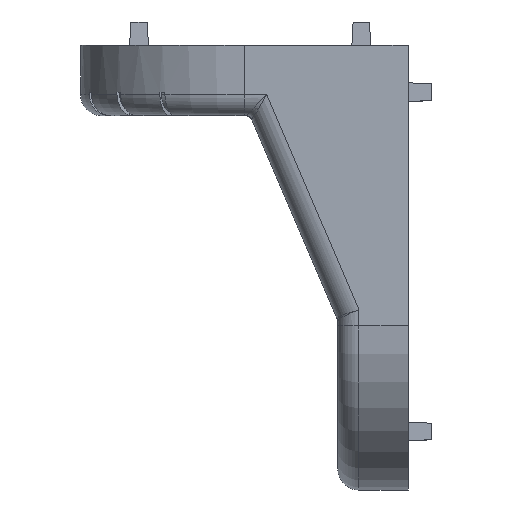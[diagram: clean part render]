
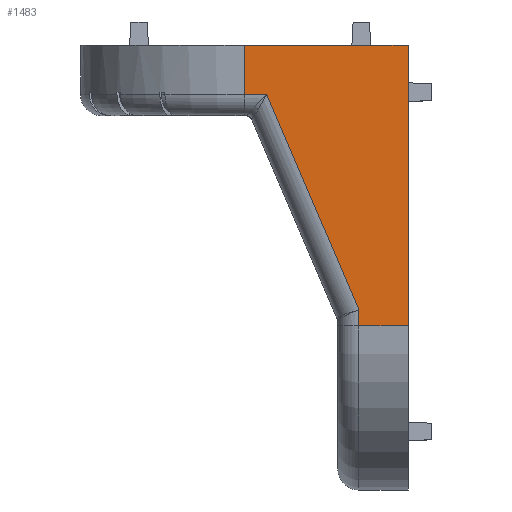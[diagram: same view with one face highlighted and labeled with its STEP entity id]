
A CAD part, top view. The second image highlights one B-rep face of the part: STEP entity #1483.
In plain terms, the highlighted planar face has unit normal (0, 0, 1).
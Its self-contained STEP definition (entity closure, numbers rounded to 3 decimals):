
#473 = CARTESIAN_POINT ( 'NONE',  ( 1., -24., 14. ) ) ;
#498 = CARTESIAN_POINT ( 'NONE',  ( -2.326, -26.997, 14. ) ) ;
#499 = DIRECTION ( 'NONE',  ( 0.394, -0.919, 0. ) ) ;
#501 = DIRECTION ( 'NONE',  ( 1., 0., 0. ) ) ;
#507 = CARTESIAN_POINT ( 'NONE',  ( -11.324, -4.2, 14. ) ) ;
#534 = DIRECTION ( 'NONE',  ( -1., 0., 0. ) ) ;
#547 = CARTESIAN_POINT ( 'NONE',  ( -4.2, -24., 14. ) ) ;
#555 = DIRECTION ( 'NONE',  ( 0., -1., 0. ) ) ;
#679 = EDGE_CURVE ( 'NONE', #2759, #2876, #3505, .T. ) ;
#690 = EDGE_CURVE ( 'NONE', #2873, #2759, #3515, .T. ) ;
#715 = EDGE_CURVE ( 'NONE', #2718, #2873, #3527, .T. ) ;
#722 = EDGE_CURVE ( 'NONE', #2861, #2876, #3532, .T. ) ;
#1139 = LINE ( 'NONE', #6465, #1140 ) ;
#1140 = VECTOR ( 'NONE', #6473, 1000. ) ;
#1483 = ADVANCED_FACE ( 'NONE', ( #4936 ), #1549, .T. ) ;
#1542 = DIRECTION ( 'NONE',  ( 0., 0., 1. ) ) ;
#1549 = PLANE ( 'NONE',  #3877 ) ;
#1550 = CARTESIAN_POINT ( 'NONE',  ( -28., -38., 14. ) ) ;
#1551 = DIRECTION ( 'NONE',  ( 1., 0., 0. ) ) ;
#1898 = ORIENTED_EDGE ( 'NONE', *, *, #715, .T. ) ;
#1914 = ORIENTED_EDGE ( 'NONE', *, *, #7580, .T. ) ;
#1920 = ORIENTED_EDGE ( 'NONE', *, *, #690, .T. ) ;
#1937 = ORIENTED_EDGE ( 'NONE', *, *, #679, .T. ) ;
#1947 = ORIENTED_EDGE ( 'NONE', *, *, #7326, .T. ) ;
#1970 = ORIENTED_EDGE ( 'NONE', *, *, #722, .F. ) ;
#1977 = ORIENTED_EDGE ( 'NONE', *, *, #5814, .T. ) ;
#2237 = LINE ( 'NONE', #7088, #2239 ) ;
#2239 = VECTOR ( 'NONE', #7089, 1000. ) ;
#2718 = VERTEX_POINT ( 'NONE', #7648 ) ;
#2724 = VERTEX_POINT ( 'NONE', #7654 ) ;
#2759 = VERTEX_POINT ( 'NONE', #7696 ) ;
#2844 = VERTEX_POINT ( 'NONE', #7787 ) ;
#2861 = VERTEX_POINT ( 'NONE', #7804 ) ;
#2873 = VERTEX_POINT ( 'NONE', #7816 ) ;
#2876 = VERTEX_POINT ( 'NONE', #7819 ) ;
#3505 = LINE ( 'NONE', #547, #3507 ) ;
#3507 = VECTOR ( 'NONE', #555, 1000. ) ;
#3515 = LINE ( 'NONE', #498, #3518 ) ;
#3518 = VECTOR ( 'NONE', #499, 1000. ) ;
#3527 = LINE ( 'NONE', #507, #3530 ) ;
#3530 = VECTOR ( 'NONE', #501, 1000. ) ;
#3532 = LINE ( 'NONE', #473, #3535 ) ;
#3535 = VECTOR ( 'NONE', #534, 1000. ) ;
#3877 = AXIS2_PLACEMENT_3D ( 'NONE', #1550, #1542, #1551 ) ;
#4751 = EDGE_LOOP ( 'NONE', ( #1977, #1898, #1920, #1937, #1970, #1914, #1947 ) ) ;
#4936 = FACE_OUTER_BOUND ( 'NONE', #4751, .T. ) ;
#5814 = EDGE_CURVE ( 'NONE', #2724, #2718, #8438, .T. ) ;
#6158 = CARTESIAN_POINT ( 'NONE',  ( -14., 1., 14. ) ) ;
#6159 = DIRECTION ( 'NONE',  ( 0., -1., 0. ) ) ;
#6465 = CARTESIAN_POINT ( 'NONE',  ( 0., 0., 14. ) ) ;
#6473 = DIRECTION ( 'NONE',  ( -1., 0., 0. ) ) ;
#7088 = CARTESIAN_POINT ( 'NONE',  ( 0., 0., 14. ) ) ;
#7089 = DIRECTION ( 'NONE',  ( 0., 1., 0. ) ) ;
#7326 = EDGE_CURVE ( 'NONE', #2844, #2724, #1139, .T. ) ;
#7580 = EDGE_CURVE ( 'NONE', #2861, #2844, #2237, .T. ) ;
#7648 = CARTESIAN_POINT ( 'NONE',  ( -14., -4.2, 14. ) ) ;
#7654 = CARTESIAN_POINT ( 'NONE',  ( -14., 0., 14. ) ) ;
#7696 = CARTESIAN_POINT ( 'NONE',  ( -4.2, -22.623, 14. ) ) ;
#7787 = CARTESIAN_POINT ( 'NONE',  ( 0., 0., 14. ) ) ;
#7804 = CARTESIAN_POINT ( 'NONE',  ( 0., -24., 14. ) ) ;
#7816 = CARTESIAN_POINT ( 'NONE',  ( -12.095, -4.2, 14. ) ) ;
#7819 = CARTESIAN_POINT ( 'NONE',  ( -4.2, -24., 14. ) ) ;
#8438 = LINE ( 'NONE', #6158, #8440 ) ;
#8440 = VECTOR ( 'NONE', #6159, 1000. ) ;
